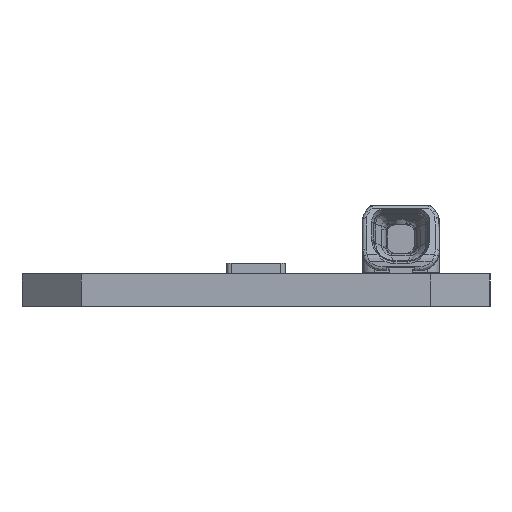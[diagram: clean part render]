
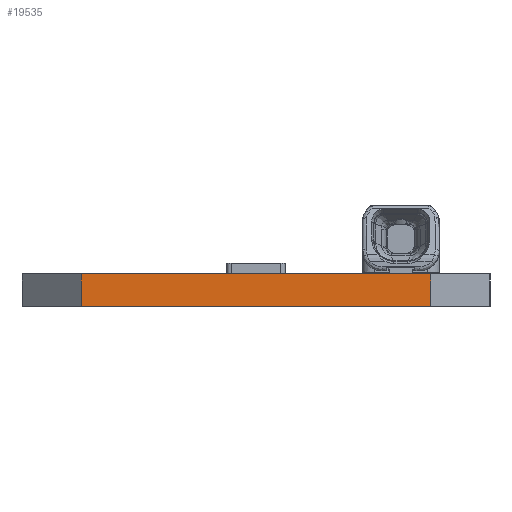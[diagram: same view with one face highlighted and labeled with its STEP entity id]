
A CAD part, left-side view. The second image highlights one B-rep face of the part: STEP entity #19535.
In plain terms, the highlighted planar face has unit normal (-1, 0, 0).
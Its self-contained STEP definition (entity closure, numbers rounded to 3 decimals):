
#2612=DIRECTION('',(0.,0.,1.));
#2613=VECTOR('',#2612,1.65);
#2614=CARTESIAN_POINT('',(-139.5,-8.8,0.));
#2615=LINE('',#2614,#2613);
#2619=DIRECTION('',(0.,1.,0.));
#2620=VECTOR('',#2619,17.6);
#2621=CARTESIAN_POINT('',(-139.5,-8.8,1.65));
#2622=LINE('',#2621,#2620);
#2710=DIRECTION('',(0.,1.,0.));
#2711=VECTOR('',#2710,17.6);
#2712=CARTESIAN_POINT('',(-139.5,-8.8,0.));
#2713=LINE('',#2712,#2711);
#3147=DIRECTION('',(0.,0.,1.));
#3148=VECTOR('',#3147,1.65);
#3149=CARTESIAN_POINT('',(-139.5,8.8,0.));
#3150=LINE('',#3149,#3148);
#16539=CARTESIAN_POINT('',(-139.5,-8.8,1.65));
#16540=CARTESIAN_POINT('',(-139.5,8.8,1.65));
#16541=VERTEX_POINT('',#16539);
#16542=VERTEX_POINT('',#16540);
#16597=CARTESIAN_POINT('',(-139.5,8.8,0.));
#16598=VERTEX_POINT('',#16597);
#16615=CARTESIAN_POINT('',(-139.5,-8.8,0.));
#16616=VERTEX_POINT('',#16615);
#19521=CARTESIAN_POINT('',(-139.5,8.8,1.65));
#19522=DIRECTION('',(-1.,0.,0.));
#19523=DIRECTION('',(0.,0.,1.));
#19524=AXIS2_PLACEMENT_3D('',#19521,#19522,#19523);
#19525=PLANE('',#19524);
#19527=ORIENTED_EDGE('',*,*,#19526,.F.);
#19529=ORIENTED_EDGE('',*,*,#19528,.T.);
#19531=ORIENTED_EDGE('',*,*,#19530,.T.);
#19532=ORIENTED_EDGE('',*,*,#18908,.F.);
#19533=EDGE_LOOP('',(#19527,#19529,#19531,#19532));
#19534=FACE_OUTER_BOUND('',#19533,.F.);
#18908=EDGE_CURVE('',#16541,#16542,#2622,.T.);
#19526=EDGE_CURVE('',#16616,#16541,#2615,.T.);
#19528=EDGE_CURVE('',#16616,#16598,#2713,.T.);
#19530=EDGE_CURVE('',#16598,#16542,#3150,.T.);
#19535=ADVANCED_FACE('',(#19534),#19525,.T.);
